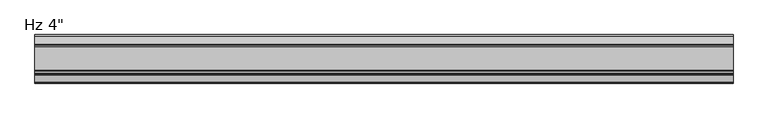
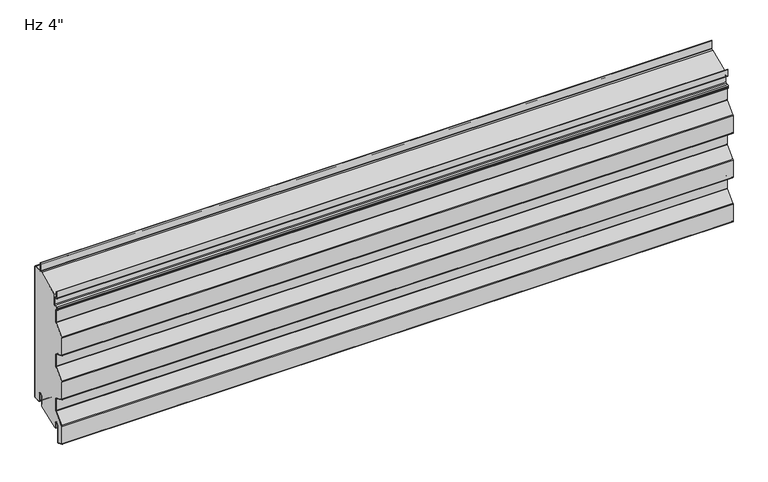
"""IFC4 building model written with IfcOpenShell, lengths in millimetres: plate geometry."""

import ifcopenshell
import ifcopenshell.guid

model = None  # the IFC model being written
_history = None  # IfcOwnerHistory: only IFC2X3 demands one
_inside = {}  # id of a spatial element -> (the spatial element, [elements in it])
_under = {}  # id of a project, library or spatial element -> (it, [spatial elements below it])
_declared = {}  # id of a project -> (the project, [libraries it declares])
_typed = {}  # id of a type object -> (the type object, [elements of that type])
_made_of = {}  # id of a material, layer set ... -> (it, [elements and type objects made of it])


def new_model(schema):
    """Start an empty IFC model of exactly this schema.

    Asked for "IFC4X3", IfcOpenShell would pick the latest addendum, in which some entities
    have other attributes; the version numbers below select the first issue.
    IFC2X3 requires an IfcOwnerHistory on every rooted entity: one is made here for all.
    """
    global model, _history
    if schema == "IFC4X3":
        model = ifcopenshell.file(schema_version=(4, 3, 0, 0))
    else:
        model = ifcopenshell.file(schema=schema)
    _inside.clear()
    _under.clear()
    _declared.clear()
    _typed.clear()
    _made_of.clear()
    _history = None
    if model.schema == "IFC2X3":
        org = make("IfcOrganization", Name="unknown")
        user = make(
            "IfcPersonAndOrganization",
            ThePerson=make("IfcPerson", FamilyName="unknown"),
            TheOrganization=org,
        )
        app = make(
            "IfcApplication",
            ApplicationDeveloper=org,
            Version="unknown",
            ApplicationFullName="unknown",
            ApplicationIdentifier="unknown",
        )
        _history = make(
            "IfcOwnerHistory",
            OwningUser=user,
            OwningApplication=app,
            ChangeAction="ADDED",
            CreationDate=0,
        )
    return model


def make(cls, **values):
    """One entity of the class cls with the attributes given. An attribute that is None is left unset."""
    return model.create_entity(
        cls, **{name: value for name, value in values.items() if value is not None}
    )


def rooted(cls, **values):
    """An entity with a GlobalId (a new one), such as an element, a storey or a relation."""
    return make(cls, GlobalId=ifcopenshell.guid.new(), OwnerHistory=_history, **values)


def si_unit(unit_type, name, prefix=None):
    """IfcSIUnit, for example si_unit("LENGTHUNIT", "METRE", prefix="MILLI")."""
    return make("IfcSIUnit", UnitType=unit_type, Prefix=prefix, Name=name)


def assignment(units):
    """IfcUnitAssignment: the units of a project."""
    return None if units is None else make("IfcUnitAssignment", Units=units)


def point(xyz):
    """IfcCartesianPoint."""
    return None if xyz is None else make("IfcCartesianPoint", Coordinates=xyz)


def direction(xyz):
    """IfcDirection."""
    return None if xyz is None else make("IfcDirection", DirectionRatios=xyz)


def frame(location, z_axis=None, x_axis=None):
    """IfcAxis2Placement3D, a coordinate frame: its origin and axes. An axis left out is left unset."""
    return make(
        "IfcAxis2Placement3D",
        Location=point(location),
        Axis=direction(z_axis),
        RefDirection=direction(x_axis),
    )


def frame_2d(location, x_axis=None):
    """IfcAxis2Placement2D, a coordinate frame in the plane: its origin and x axis."""
    return make(
        "IfcAxis2Placement2D", Location=point(location), RefDirection=direction(x_axis)
    )


def origin():
    """The frame at (0, 0, 0) with its axes left unset."""
    return frame((0.0, 0.0, 0.0))


def place(relative_to, where):
    """IfcLocalPlacement: puts the frame where relative to a parent placement (None: the world)."""
    return make(
        "IfcLocalPlacement", PlacementRelTo=relative_to, RelativePlacement=where
    )


def context(
    kind, dimensions, precision=None, world=None, true_north=None, identifier=None
):
    """IfcGeometricRepresentationContext, for example the 3D "Model" context."""
    return make(
        "IfcGeometricRepresentationContext",
        ContextIdentifier=identifier,
        ContextType=kind,
        CoordinateSpaceDimension=dimensions,
        Precision=precision,
        WorldCoordinateSystem=world,
        TrueNorth=true_north,
    )


def project(units=None, contexts=None):
    """IfcProject with its units and contexts."""
    return rooted(
        "IfcProject",
        Name="project",
        RepresentationContexts=contexts,
        UnitsInContext=assignment(units),
    )


def spatial(cls, under=None, at=None, **own):
    """A site, building, storey or space (cls), placed at a placement, below another one or the project."""
    s = rooted(cls, ObjectPlacement=at, **own)
    if under is not None:
        _under.setdefault(under.id(), (under, []))[1].append(s)
    return s


def polyline(points):
    """IfcPolyline through the points."""
    return make("IfcPolyline", Points=[point(p) for p in points])


def circle_curve(where, radius):
    """IfcCircle in the frame where."""
    return make("IfcCircle", Position=where, Radius=radius)


def trimmed(basis, trim1, trim2, sense, master):
    """IfcTrimmedCurve: the piece of a basis curve between two trims."""
    return make(
        "IfcTrimmedCurve",
        BasisCurve=basis,
        Trim1=trim1,
        Trim2=trim2,
        SenseAgreement=sense,
        MasterRepresentation=master,
    )


def segment(curve, same_sense, transition):
    """IfcCompositeCurveSegment."""
    return make(
        "IfcCompositeCurveSegment",
        Transition=transition,
        SameSense=same_sense,
        ParentCurve=curve,
    )


def composite_curve(segments, self_intersect=None):
    """IfcCompositeCurve: segments joined end to end."""
    return make("IfcCompositeCurve", Segments=segments, SelfIntersect=self_intersect)


def outline(outer, holes=None, kind="AREA"):
    """IfcArbitraryClosedProfileDef: a profile drawn as a closed curve; with holes, ...WithVoids."""
    if holes is None:
        return make("IfcArbitraryClosedProfileDef", ProfileType=kind, OuterCurve=outer)
    return make(
        "IfcArbitraryProfileDefWithVoids",
        ProfileType=kind,
        OuterCurve=outer,
        InnerCurves=holes,
    )


def extrude(swept, where, along, depth):
    """IfcExtrudedAreaSolid: the profile swept, set in the frame where, extruded along a direction by depth."""
    return make(
        "IfcExtrudedAreaSolid",
        SweptArea=swept,
        Position=where,
        ExtrudedDirection=direction(along),
        Depth=depth,
    )


def shape(context_of_items, identifier, shape_type, items):
    """IfcShapeRepresentation: the items that make up one representation, for example the "Body"."""
    return make(
        "IfcShapeRepresentation",
        ContextOfItems=context_of_items,
        RepresentationIdentifier=identifier,
        RepresentationType=shape_type,
        Items=items,
    )


def source(mapping_origin, context_of_items, identifier, shape_type, items):
    """IfcRepresentationMap: a shape defined once, which mapped items show again and again."""
    return make(
        "IfcRepresentationMap",
        MappingOrigin=mapping_origin,
        MappedRepresentation=shape(context_of_items, identifier, shape_type, items),
    )


def transform(
    local_origin,
    x_axis=None,
    y_axis=None,
    z_axis=None,
    scale=None,
    scale2=None,
    scale3=None,
    uniform=True,
):
    """IfcCartesianTransformationOperator3D, or its non-uniform kind. x_axis, y_axis, z_axis: its Axis1, 2, 3."""
    if uniform:
        return make(
            "IfcCartesianTransformationOperator3D",
            Axis1=direction(x_axis),
            Axis2=direction(y_axis),
            LocalOrigin=point(local_origin),
            Scale=scale,
            Axis3=direction(z_axis),
        )
    return make(
        "IfcCartesianTransformationOperator3DnonUniform",
        Axis1=direction(x_axis),
        Axis2=direction(y_axis),
        LocalOrigin=point(local_origin),
        Scale=scale,
        Axis3=direction(z_axis),
        Scale2=scale2,
        Scale3=scale3,
    )


def mapped(mapping_source, mapping_target):
    """IfcMappedItem: shows the shape of a source again, moved by a transform."""
    return make(
        "IfcMappedItem", MappingSource=mapping_source, MappingTarget=mapping_target
    )


def made_of(thing, what):
    """Note that an element or type object is made of a material, layer set ...; save() writes the relation."""
    if what is not None:
        _made_of.setdefault(what.id(), (what, []))[1].append(thing)
    return thing


def element(
    cls,
    number,
    at=None,
    inside=None,
    cuts=None,
    type_object=None,
    material=None,
    context=None,
    identifier="Body",
    shape_type=None,
    held_by="IfcProductDefinitionShape",
    body=None,
    shapes=None,
    **own,
):
    """One element of the class cls, such as IfcWall. Its Tag is "e" and its number.

    at: its placement. inside: the storey or other place that contains it. cuts: it is an
    opening in that element (IfcRelVoidsElement). A single representation is given by context,
    identifier, shape_type and body (its items); several are given by shapes. held_by: the class
    of the entity that holds the representations. save() writes the other relations.
    """
    e = rooted(cls, Tag="e%d" % number, ObjectPlacement=at, **own)
    if body is not None:
        shapes = [shape(context, identifier, shape_type, body)]
    if shapes is not None:
        e.Representation = make(held_by, Representations=shapes)
    if inside is not None:
        _inside.setdefault(inside.id(), (inside, []))[1].append(e)
    if cuts is not None:
        rooted(
            "IfcRelVoidsElement", RelatingBuildingElement=cuts, RelatedOpeningElement=e
        )
    if type_object is not None:
        _typed.setdefault(type_object.id(), (type_object, []))[1].append(e)
    return made_of(e, material)


def aggregate(whole, parts):
    """IfcRelAggregates: a whole, such as a stair, and the parts it consists of."""
    return rooted("IfcRelAggregates", RelatingObject=whole, RelatedObjects=parts)


def save(model, path):
    """Write the relations noted so far, then the file.

    IfcRelAggregates (storeys below a building ...), IfcRelContainedInSpatialStructure (elements
    in a storey), IfcRelDefinesByType, IfcRelAssociatesMaterial and IfcRelDeclares: one each for
    every whole, place, type object, material and project.
    """
    for whole, parts in _under.values():
        aggregate(whole, parts)
    for where, things in _inside.values():
        rooted(
            "IfcRelContainedInSpatialStructure",
            RelatedElements=things,
            RelatingStructure=where,
        )
    for kind, things in _typed.values():
        rooted("IfcRelDefinesByType", RelatedObjects=things, RelatingType=kind)
    for what, things in _made_of.values():
        rooted("IfcRelAssociatesMaterial", RelatedObjects=things, RelatingMaterial=what)
    for by, libraries in _declared.values():
        rooted("IfcRelDeclares", RelatingContext=by, RelatedDefinitions=libraries)
    model.write(path)


def plate_3b02127c(model_context):
    return source(origin(), model_context, "Body", "SweptSolid", [
        extrude(outline(composite_curve([segment(polyline([(-26.4011912, 19.05), (-26.4011912, -3.1976612), (-74.633822, -23.01875), (-76.7886912, -23.01875), (-76.7886912, -11.90625)]), True, "CONTINUOUS"), segment(trimmed(circle_curve(frame_2d((-81.7574412, -11.90625)), 4.96875), [point((-76.7886912, -11.90625))], [point((-86.7261912, -11.90625))], True, "CARTESIAN"), True, "CONTINUOUS"), segment(polyline([(-86.7261912, -11.90625), (-86.7261912, -48.8194049)]), True, "CONTINUOUS"), segment(trimmed(circle_curve(frame_2d((-88.1074412, -48.8194049)), 1.38125), [point((-86.7261912, -48.8194049))], [point((-88.6666208, -50.0824052))], False, "CARTESIAN"), True, "CONTINUOUS"), segment(polyline([(-88.6666208, -50.0824052), (-99.7779296, -45.1629946)]), True, "CONTINUOUS"), segment(trimmed(circle_curve(frame_2d((-99.21875, -43.8999943)), 1.38125), [point((-99.7779296, -45.1629946))], [point((-100.6, -43.8999943))], False, "CARTESIAN"), True, "CONTINUOUS"), segment(polyline([(-100.6, -43.8999943), (-100.6, -5.0536946)]), True, "CONTINUOUS"), segment(trimmed(circle_curve(frame_2d((-98.5012, -5.0536946)), 2.0988), [point((-100.6, -5.0536946))], [point((-100.0092077, -3.5939431))], False, "CARTESIAN"), True, "CONTINUOUS"), segment(polyline([(-100.0092077, -3.5939431), (-79.8145567, 17.2682996)]), True, "CONTINUOUS"), segment(trimmed(circle_curve(frame_2d((-81.6737, 19.0679503)), 2.5875), [point((-79.8145567, 17.2682996))], [point((-79.0862, 19.0679503))], True, "CARTESIAN"), True, "CONTINUOUS"), segment(polyline([(-79.0862, 19.0679503), (-79.0862, 45.5917981)]), True, "CONTINUOUS"), segment(trimmed(circle_curve(frame_2d((-81.6737, 45.5917981)), 2.5875), [point((-79.0862, 45.5917981))], [point((-80.6261871, 47.9577806))], True, "CARTESIAN"), True, "CONTINUOUS"), segment(polyline([(-80.6261871, 47.9577806), (-99.7779296, 56.4370054)]), True, "CONTINUOUS"), segment(trimmed(circle_curve(frame_2d((-99.21875, 57.7000057)), 1.38125), [point((-99.7779296, 56.4370054))], [point((-100.6, 57.7000057))], False, "CARTESIAN"), True, "CONTINUOUS"), segment(polyline([(-100.6, 57.7000057), (-100.6, 96.8367131)]), True, "CONTINUOUS"), segment(trimmed(circle_curve(frame_2d((-99.21875, 96.8367131)), 1.38125), [point((-100.6, 96.8367131))], [point((-100.2111912, 97.7973962))], False, "CARTESIAN"), True, "CONTINUOUS"), segment(polyline([(-100.2111912, 97.7973962), (-79.8145567, 118.8682996)]), True, "CONTINUOUS"), segment(trimmed(circle_curve(frame_2d((-81.6737, 120.6679503)), 2.5875), [point((-79.8145567, 118.8682996))], [point((-79.0862, 120.6679503))], True, "CARTESIAN"), True, "CONTINUOUS"), segment(polyline([(-79.0862, 120.6679503), (-79.0862, 147.1917981)]), True, "CONTINUOUS"), segment(trimmed(circle_curve(frame_2d((-81.6737, 147.1917981)), 2.5875), [point((-79.0862, 147.1917981))], [point((-80.6261871, 149.5577806))], True, "CARTESIAN"), True, "CONTINUOUS"), segment(polyline([(-80.6261871, 149.5577806), (-99.7779296, 158.0370054)]), True, "CONTINUOUS"), segment(trimmed(circle_curve(frame_2d((-99.21875, 159.3000057)), 1.38125), [point((-99.7779296, 158.0370054))], [point((-100.6, 159.3000057))], False, "CARTESIAN"), True, "CONTINUOUS"), segment(polyline([(-100.6, 159.3000057), (-100.6, 198.4367131)]), True, "CONTINUOUS"), segment(trimmed(circle_curve(frame_2d((-99.21875, 198.4367131)), 1.38125), [point((-100.6, 198.4367131))], [point((-100.2111912, 199.3973962))], False, "CARTESIAN"), True, "CONTINUOUS"), segment(polyline([(-100.2111912, 199.3973962), (-79.8145567, 220.4682996)]), True, "CONTINUOUS"), segment(trimmed(circle_curve(frame_2d((-81.6737, 222.2679503)), 2.5875), [point((-79.8145567, 220.4682996))], [point((-79.0862, 222.2679503))], True, "CARTESIAN"), True, "CONTINUOUS"), segment(polyline([(-79.0862, 222.2679503), (-79.0862, 248.7917981)]), True, "CONTINUOUS"), segment(trimmed(circle_curve(frame_2d((-81.6737, 248.7917981)), 2.5875), [point((-79.0862, 248.7917981))], [point((-80.6261871, 251.1577806))], True, "CARTESIAN"), True, "CONTINUOUS"), segment(polyline([(-80.6261871, 251.1577806), (-82.3166208, 251.9062016)]), True, "CONTINUOUS"), segment(trimmed(circle_curve(frame_2d((-81.7574412, 253.1692019)), 1.38125), [point((-82.3166208, 251.9062016))], [point((-83.1386912, 253.1692019))], False, "CARTESIAN"), True, "CONTINUOUS"), segment(polyline([(-83.1386912, 253.1692019), (-83.1386912, 255.4967085)]), True, "CONTINUOUS"), segment(trimmed(circle_curve(frame_2d((-81.7574412, 255.4967085)), 1.38125), [point((-83.1386912, 255.4967085))], [point((-81.8297302, 256.8760655))], False, "CARTESIAN"), True, "CONTINUOUS"), segment(polyline([(-81.8297302, 256.8760655), (-76.0657719, 257.1781418)]), True, "CONTINUOUS"), segment(trimmed(circle_curve(frame_2d((-76.2011912, 259.7620957)), 2.5875), [point((-76.0657719, 257.1781418))], [point((-73.6136912, 259.7620957))], True, "CARTESIAN"), True, "CONTINUOUS"), segment(polyline([(-73.6136912, 259.7620957), (-73.6136912, 282.1892934), (-24.8719682, 303.00625), (-2.3824412, 303.00625)]), True, "CONTINUOUS"), segment(trimmed(circle_curve(frame_2d((-2.3824412, 301.625)), 1.38125), [point((-2.3824412, 303.00625))], [point((-1.0011912, 301.625))], False, "CARTESIAN"), True, "CONTINUOUS"), segment(polyline([(-1.0011912, 301.625), (-1.0011912, 3.175)]), True, "CONTINUOUS"), segment(trimmed(circle_curve(frame_2d((-2.3824412, 3.175)), 1.38125), [point((-1.0011912, 3.175))], [point((-2.3824412, 1.79375))], False, "CARTESIAN"), True, "CONTINUOUS"), segment(polyline([(-2.3824412, 1.79375), (-15.0824412, 1.79375)]), True, "CONTINUOUS"), segment(trimmed(circle_curve(frame_2d((-15.0824412, 3.175)), 1.38125), [point((-15.0824412, 1.79375))], [point((-16.4636912, 3.175))], False, "CARTESIAN"), True, "CONTINUOUS"), segment(polyline([(-16.4636912, 3.175), (-16.4636912, 19.05)]), True, "CONTINUOUS"), segment(trimmed(circle_curve(frame_2d((-21.4324412, 19.05)), 4.96875), [point((-16.4636912, 19.05))], [point((-26.4011912, 19.05))], True, "CARTESIAN"), True, "CONTINUOUS")], self_intersect=False)), frame((-730.0, 0.0, 0.0), z_axis=(1.0, 0.0, 0.0), x_axis=(0.0, 1.0, 0.0)), (0.0, 0.0, 1.0), 1460.0),
        extrude(outline(composite_curve([segment(polyline([(-25.4, 0.79375), (-26.4, 0.79375), (-26.4, 19.05)]), True, "CONTINUOUS"), segment(trimmed(circle_curve(frame_2d((-21.43125, 19.05)), 4.96875), [point((-26.4, 19.05))], [point((-16.4625, 19.05))], False, "CARTESIAN"), True, "CONTINUOUS"), segment(polyline([(-16.4625, 19.05), (-16.4625, 3.175)]), True, "CONTINUOUS"), segment(trimmed(circle_curve(frame_2d((-15.08125, 3.175)), 1.38125), [point((-16.4625, 3.175))], [point((-15.08125, 1.79375))], True, "CARTESIAN"), True, "CONTINUOUS"), segment(polyline([(-15.08125, 1.79375), (-2.38125, 1.79375)]), True, "CONTINUOUS"), segment(trimmed(circle_curve(frame_2d((-2.38125, 3.175)), 1.38125), [point((-2.38125, 1.79375))], [point((-1.0, 3.175))], True, "CARTESIAN"), True, "CONTINUOUS"), segment(polyline([(-1.0, 3.175), (-1.0, 301.625)]), True, "CONTINUOUS"), segment(trimmed(circle_curve(frame_2d((-2.38125, 301.625)), 1.38125), [point((-1.0, 301.625))], [point((-2.38125, 303.00625))], True, "CARTESIAN"), True, "CONTINUOUS"), segment(polyline([(-2.38125, 303.00625), (-19.446875, 303.00625)]), True, "CONTINUOUS"), segment(trimmed(circle_curve(frame_2d((-19.446875, 305.59375)), 2.5875), [point((-19.446875, 303.00625))], [point((-22.034375, 305.59375))], False, "CARTESIAN"), True, "CONTINUOUS"), segment(polyline([(-22.034375, 305.59375), (-22.034375, 323.05625), (-21.034375, 323.05625), (-21.034375, 305.59375)]), True, "CONTINUOUS"), segment(trimmed(circle_curve(frame_2d((-19.446875, 305.59375)), 1.5875), [point((-21.034375, 305.59375))], [point((-19.446875, 304.00625))], True, "CARTESIAN"), True, "CONTINUOUS"), segment(polyline([(-19.446875, 304.00625), (-2.38125, 304.00625)]), True, "CONTINUOUS"), segment(trimmed(circle_curve(frame_2d((-2.38125, 301.625)), 2.38125), [point((-2.38125, 304.00625))], [point((0.0, 301.625))], False, "CARTESIAN"), True, "CONTINUOUS"), segment(polyline([(0.0, 301.625), (0.0, 3.175)]), True, "CONTINUOUS"), segment(trimmed(circle_curve(frame_2d((-2.38125, 3.175)), 2.38125), [point((0.0, 3.175))], [point((-2.38125, 0.79375))], False, "CARTESIAN"), True, "CONTINUOUS"), segment(polyline([(-2.38125, 0.79375), (-15.08125, 0.79375)]), True, "CONTINUOUS"), segment(trimmed(circle_curve(frame_2d((-15.08125, 3.175)), 2.38125), [point((-15.08125, 0.79375))], [point((-17.4625, 3.175))], False, "CARTESIAN"), True, "CONTINUOUS"), segment(polyline([(-17.4625, 3.175), (-17.4625, 19.05)]), True, "CONTINUOUS"), segment(trimmed(circle_curve(frame_2d((-21.43125, 19.05)), 3.96875), [point((-17.4625, 19.05))], [point((-25.4, 19.05))], True, "CARTESIAN"), True, "CONTINUOUS"), segment(polyline([(-25.4, 19.05), (-25.4, 0.79375)]), True, "CONTINUOUS")], self_intersect=False)), frame((-730.0, 0.0, 0.0), z_axis=(1.0, 0.0, 0.0), x_axis=(0.0, 1.0, 0.0)), (0.0, 0.0, 1.0), 1460.0),
        extrude(outline(composite_curve([segment(polyline([(-85.7261912, -11.90625), (-85.7261912, -48.8194049)]), True, "CONTINUOUS"), segment(trimmed(circle_curve(frame_2d((-88.1074412, -48.8194049)), 2.38125), [point((-85.7261912, -48.8194049))], [point((-89.0714567, -50.9967946))], False, "CARTESIAN"), True, "CONTINUOUS"), segment(polyline([(-89.0714567, -50.9967946), (-100.1827655, -46.0773839)]), True, "CONTINUOUS"), segment(trimmed(circle_curve(frame_2d((-99.21875, -43.8999943)), 2.38125), [point((-100.1827655, -46.0773839))], [point((-101.6, -43.8999943))], False, "CARTESIAN"), True, "CONTINUOUS"), segment(polyline([(-101.6, -43.8999943), (-101.6, -5.0536946)]), True, "CONTINUOUS"), segment(trimmed(circle_curve(frame_2d((-98.5012, -5.0536946)), 3.0988), [point((-101.6, -5.0536946))], [point((-100.7277172, -2.8984259))], False, "CARTESIAN"), True, "CONTINUOUS"), segment(polyline([(-100.7277172, -2.8984259), (-80.5330662, 17.9638168)]), True, "CONTINUOUS"), segment(trimmed(circle_curve(frame_2d((-81.6737, 19.0679503)), 1.5875), [point((-80.5330662, 17.9638168))], [point((-80.0862, 19.0679503))], True, "CARTESIAN"), True, "CONTINUOUS"), segment(polyline([(-80.0862, 19.0679503), (-80.0862, 45.5917981)]), True, "CONTINUOUS"), segment(trimmed(circle_curve(frame_2d((-81.6737, 45.5917981)), 1.5875), [point((-80.0862, 45.5917981))], [point((-81.031023, 47.0433912))], True, "CARTESIAN"), True, "CONTINUOUS"), segment(polyline([(-81.031023, 47.0433912), (-100.1827655, 55.5226161)]), True, "CONTINUOUS"), segment(trimmed(circle_curve(frame_2d((-99.21875, 57.7000057)), 2.38125), [point((-100.1827655, 55.5226161))], [point((-101.6, 57.7000057))], False, "CARTESIAN"), True, "CONTINUOUS"), segment(polyline([(-101.6, 57.7000057), (-101.6, 96.8367131)]), True, "CONTINUOUS"), segment(trimmed(circle_curve(frame_2d((-99.21875, 96.8367131)), 2.38125), [point((-101.6, 96.8367131))], [point((-100.9297007, 98.4929134))], False, "CARTESIAN"), True, "CONTINUOUS"), segment(polyline([(-100.9297007, 98.4929134), (-80.5330662, 119.5638168)]), True, "CONTINUOUS"), segment(trimmed(circle_curve(frame_2d((-81.6737, 120.6679503)), 1.5875), [point((-80.5330662, 119.5638168))], [point((-80.0862, 120.6679503))], True, "CARTESIAN"), True, "CONTINUOUS"), segment(polyline([(-80.0862, 120.6679503), (-80.0862, 147.1917981)]), True, "CONTINUOUS"), segment(trimmed(circle_curve(frame_2d((-81.6737, 147.1917981)), 1.5875), [point((-80.0862, 147.1917981))], [point((-81.031023, 148.6433912))], True, "CARTESIAN"), True, "CONTINUOUS"), segment(polyline([(-81.031023, 148.6433912), (-100.1827655, 157.1226161)]), True, "CONTINUOUS"), segment(trimmed(circle_curve(frame_2d((-99.21875, 159.3000057)), 2.38125), [point((-100.1827655, 157.1226161))], [point((-101.6, 159.3000057))], False, "CARTESIAN"), True, "CONTINUOUS"), segment(polyline([(-101.6, 159.3000057), (-101.6, 198.4367131)]), True, "CONTINUOUS"), segment(trimmed(circle_curve(frame_2d((-99.21875, 198.4367131)), 2.38125), [point((-101.6, 198.4367131))], [point((-100.9297007, 200.0929134))], False, "CARTESIAN"), True, "CONTINUOUS"), segment(polyline([(-100.9297007, 200.0929134), (-80.5330662, 221.1638168)]), True, "CONTINUOUS"), segment(trimmed(circle_curve(frame_2d((-81.6737, 222.2679503)), 1.5875), [point((-80.5330662, 221.1638168))], [point((-80.0862, 222.2679503))], True, "CARTESIAN"), True, "CONTINUOUS"), segment(polyline([(-80.0862, 222.2679503), (-80.0862, 248.7917981)]), True, "CONTINUOUS"), segment(trimmed(circle_curve(frame_2d((-81.6737, 248.7917981)), 1.5875), [point((-80.0862, 248.7917981))], [point((-81.031023, 250.2433912))], True, "CARTESIAN"), True, "CONTINUOUS"), segment(polyline([(-81.031023, 250.2433912), (-82.7214567, 250.9918123)]), True, "CONTINUOUS"), segment(trimmed(circle_curve(frame_2d((-81.7574412, 253.1692019)), 2.38125), [point((-82.7214567, 250.9918123))], [point((-84.1386912, 253.1692019))], False, "CARTESIAN"), True, "CONTINUOUS"), segment(polyline([(-84.1386912, 253.1692019), (-84.1386912, 255.4967085)]), True, "CONTINUOUS"), segment(trimmed(circle_curve(frame_2d((-81.7574412, 255.4967085)), 2.38125), [point((-84.1386912, 255.4967085))], [point((-81.8820662, 257.8746951))], False, "CARTESIAN"), True, "CONTINUOUS"), segment(polyline([(-81.8820662, 257.8746951), (-76.1181078, 258.1767713)]), True, "CONTINUOUS"), segment(trimmed(circle_curve(frame_2d((-76.2011912, 259.7620957)), 1.5875), [point((-76.1181078, 258.1767713))], [point((-74.6136912, 259.7620957))], True, "CARTESIAN"), True, "CONTINUOUS"), segment(polyline([(-74.6136912, 259.7620957), (-74.6136912, 274.6375)]), True, "CONTINUOUS"), segment(trimmed(circle_curve(frame_2d((-76.2011912, 274.6375)), 1.5875), [point((-74.6136912, 274.6375))], [point((-76.2011912, 276.225))], True, "CARTESIAN"), True, "CONTINUOUS"), segment(polyline([(-76.2011912, 276.225), (-79.7730662, 276.225)]), True, "CONTINUOUS"), segment(trimmed(circle_curve(frame_2d((-79.7730662, 278.60625)), 2.38125), [point((-79.7730662, 276.225))], [point((-82.1543162, 278.60625))], False, "CARTESIAN"), True, "CONTINUOUS"), segment(polyline([(-82.1543162, 278.60625), (-82.1543162, 292.89375), (-81.1543162, 292.89375), (-81.1543162, 278.60625)]), True, "CONTINUOUS"), segment(trimmed(circle_curve(frame_2d((-79.7730662, 278.60625)), 1.38125), [point((-81.1543162, 278.60625))], [point((-79.7730662, 277.225))], True, "CARTESIAN"), True, "CONTINUOUS"), segment(polyline([(-79.7730662, 277.225), (-76.2011912, 277.225)]), True, "CONTINUOUS"), segment(trimmed(circle_curve(frame_2d((-76.2011912, 274.6375)), 2.5875), [point((-76.2011912, 277.225))], [point((-73.6136912, 274.6375))], False, "CARTESIAN"), True, "CONTINUOUS"), segment(polyline([(-73.6136912, 274.6375), (-73.6136912, 259.7620957)]), True, "CONTINUOUS"), segment(trimmed(circle_curve(frame_2d((-76.2011912, 259.7620957)), 2.5875), [point((-73.6136912, 259.7620957))], [point((-76.0657719, 257.1781418))], False, "CARTESIAN"), True, "CONTINUOUS"), segment(polyline([(-76.0657719, 257.1781418), (-81.8297302, 256.8760655)]), True, "CONTINUOUS"), segment(trimmed(circle_curve(frame_2d((-81.7574412, 255.4967085)), 1.38125), [point((-81.8297302, 256.8760655))], [point((-83.1386912, 255.4967085))], True, "CARTESIAN"), True, "CONTINUOUS"), segment(polyline([(-83.1386912, 255.4967085), (-83.1386912, 253.1692019)]), True, "CONTINUOUS"), segment(trimmed(circle_curve(frame_2d((-81.7574412, 253.1692019)), 1.38125), [point((-83.1386912, 253.1692019))], [point((-82.3166208, 251.9062016))], True, "CARTESIAN"), True, "CONTINUOUS"), segment(polyline([(-82.3166208, 251.9062016), (-80.6261871, 251.1577806)]), True, "CONTINUOUS"), segment(trimmed(circle_curve(frame_2d((-81.6737, 248.7917981)), 2.5875), [point((-80.6261871, 251.1577806))], [point((-79.0862, 248.7917981))], False, "CARTESIAN"), True, "CONTINUOUS"), segment(polyline([(-79.0862, 248.7917981), (-79.0862, 222.2679503)]), True, "CONTINUOUS"), segment(trimmed(circle_curve(frame_2d((-81.6737, 222.2679503)), 2.5875), [point((-79.0862, 222.2679503))], [point((-79.8145567, 220.4682996))], False, "CARTESIAN"), True, "CONTINUOUS"), segment(polyline([(-79.8145567, 220.4682996), (-100.2111912, 199.3973962)]), True, "CONTINUOUS"), segment(trimmed(circle_curve(frame_2d((-99.21875, 198.4367131)), 1.38125), [point((-100.2111912, 199.3973962))], [point((-100.6, 198.4367131))], True, "CARTESIAN"), True, "CONTINUOUS"), segment(polyline([(-100.6, 198.4367131), (-100.6, 159.3000057)]), True, "CONTINUOUS"), segment(trimmed(circle_curve(frame_2d((-99.21875, 159.3000057)), 1.38125), [point((-100.6, 159.3000057))], [point((-99.7779296, 158.0370054))], True, "CARTESIAN"), True, "CONTINUOUS"), segment(polyline([(-99.7779296, 158.0370054), (-80.6261871, 149.5577806)]), True, "CONTINUOUS"), segment(trimmed(circle_curve(frame_2d((-81.6737, 147.1917981)), 2.5875), [point((-80.6261871, 149.5577806))], [point((-79.0862, 147.1917981))], False, "CARTESIAN"), True, "CONTINUOUS"), segment(polyline([(-79.0862, 147.1917981), (-79.0862, 120.6679503)]), True, "CONTINUOUS"), segment(trimmed(circle_curve(frame_2d((-81.6737, 120.6679503)), 2.5875), [point((-79.0862, 120.6679503))], [point((-79.8145567, 118.8682996))], False, "CARTESIAN"), True, "CONTINUOUS"), segment(polyline([(-79.8145567, 118.8682996), (-100.2111912, 97.7973962)]), True, "CONTINUOUS"), segment(trimmed(circle_curve(frame_2d((-99.21875, 96.8367131)), 1.38125), [point((-100.2111912, 97.7973962))], [point((-100.6, 96.8367131))], True, "CARTESIAN"), True, "CONTINUOUS"), segment(polyline([(-100.6, 96.8367131), (-100.6, 57.7000057)]), True, "CONTINUOUS"), segment(trimmed(circle_curve(frame_2d((-99.21875, 57.7000057)), 1.38125), [point((-100.6, 57.7000057))], [point((-99.7779296, 56.4370054))], True, "CARTESIAN"), True, "CONTINUOUS"), segment(polyline([(-99.7779296, 56.4370054), (-80.6261871, 47.9577806)]), True, "CONTINUOUS"), segment(trimmed(circle_curve(frame_2d((-81.6737, 45.5917981)), 2.5875), [point((-80.6261871, 47.9577806))], [point((-79.0862, 45.5917981))], False, "CARTESIAN"), True, "CONTINUOUS"), segment(polyline([(-79.0862, 45.5917981), (-79.0862, 19.0679503)]), True, "CONTINUOUS"), segment(trimmed(circle_curve(frame_2d((-81.6737, 19.0679503)), 2.5875), [point((-79.0862, 19.0679503))], [point((-79.8145567, 17.2682996))], False, "CARTESIAN"), True, "CONTINUOUS"), segment(polyline([(-79.8145567, 17.2682996), (-100.0092077, -3.5939431)]), True, "CONTINUOUS"), segment(trimmed(circle_curve(frame_2d((-98.5012, -5.0536946)), 2.0988), [point((-100.0092077, -3.5939431))], [point((-100.6, -5.0536946))], True, "CARTESIAN"), True, "CONTINUOUS"), segment(polyline([(-100.6, -5.0536946), (-100.6, -43.8999943)]), True, "CONTINUOUS"), segment(trimmed(circle_curve(frame_2d((-99.21875, -43.8999943)), 1.38125), [point((-100.6, -43.8999943))], [point((-99.7779296, -45.1629946))], True, "CARTESIAN"), True, "CONTINUOUS"), segment(polyline([(-99.7779296, -45.1629946), (-88.6666208, -50.0824052)]), True, "CONTINUOUS"), segment(trimmed(circle_curve(frame_2d((-88.1074412, -48.8194049)), 1.38125), [point((-88.6666208, -50.0824052))], [point((-86.7261912, -48.8194049))], True, "CARTESIAN"), True, "CONTINUOUS"), segment(polyline([(-86.7261912, -48.8194049), (-86.7261912, -11.90625)]), True, "CONTINUOUS"), segment(trimmed(circle_curve(frame_2d((-81.7574412, -11.90625)), 4.96875), [point((-86.7261912, -11.90625))], [point((-76.7886912, -11.90625))], False, "CARTESIAN"), True, "CONTINUOUS"), segment(polyline([(-76.7886912, -11.90625), (-76.7886912, -23.01875), (-77.7886912, -23.01875), (-77.7886912, -11.90625)]), True, "CONTINUOUS"), segment(trimmed(circle_curve(frame_2d((-81.7574412, -11.90625)), 3.96875), [point((-77.7886912, -11.90625))], [point((-85.7261912, -11.90625))], True, "CARTESIAN"), True, "CONTINUOUS")], self_intersect=False)), frame((-730.0, 0.0, 0.0), z_axis=(1.0, 0.0, 0.0), x_axis=(0.0, 1.0, 0.0)), (0.0, 0.0, 1.0), 1460.0),
    ])


if __name__ == "__main__":
    model = new_model("IFC4")
    model_context = context("Model", 3, world=origin())
    ifc_project = project(units=[si_unit("LENGTHUNIT", "METRE", prefix="MILLI")], contexts=[model_context])
    site = spatial("IfcSite", under=ifc_project)
    building = spatial("IfcBuilding", under=site)
    placement = place(None, origin())
    plate_shape = plate_3b02127c(model_context)
    element("IfcPlate", 1, ObjectType="KIP-12-DWR-R19-CP-Hz-S : Hz 4\"", at=placement, inside=building, context=model_context, shape_type="MappedRepresentation", body=[
        mapped(plate_shape, transform((0.0, 0.0, 0.0), x_axis=(1.0, 0.0, 0.0), y_axis=(0.0, 1.0, 0.0), z_axis=(0.0, 0.0, 1.0))),
    ])
    save(model, "model.ifc")
